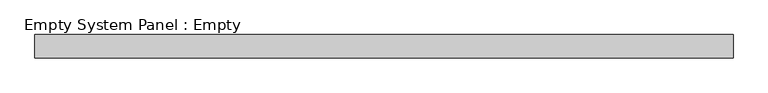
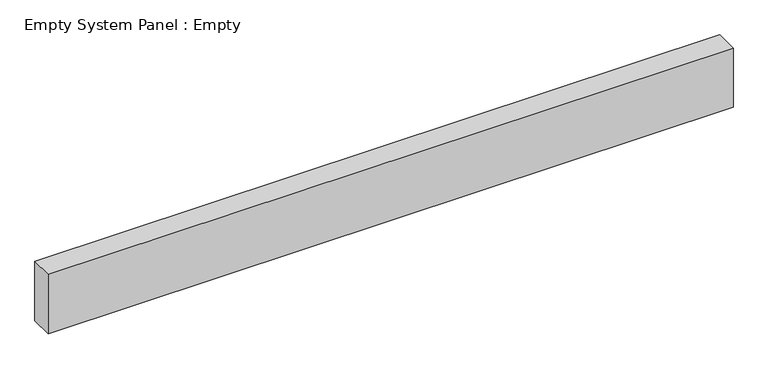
"""IFC4 building model written with IfcOpenShell, lengths in millimetres: plate geometry, Empty System Panel : Empty."""

from ifc_helpers import new_model, si_unit, origin, origin_with_axes, place, context, project, spatial, polyline, outline, extrude, source, transform, mapped, element, save


def empty_system_panel_empty_2f02a19b(model_context):
    return source(origin(), model_context, "Body", "SweptSolid", [
        extrude(outline(polyline([(1500.0, -50.0), (-1500.0, -50.0), (-1500.0, 50.0), (1500.0, 50.0), (1500.0, -50.0)])), origin_with_axes(), (0.0, 0.0, 1.0), 275.0),
    ])


if __name__ == "__main__":
    model = new_model("IFC4")
    model_context = context("Model", 3, world=origin())
    ifc_project = project(units=[si_unit("LENGTHUNIT", "METRE", prefix="MILLI")], contexts=[model_context])
    site = spatial("IfcSite", under=ifc_project)
    building = spatial("IfcBuilding", under=site)
    placement = place(None, origin())
    empty_system_panel_empty_shape = empty_system_panel_empty_2f02a19b(model_context)
    element("IfcPlate", 1, ObjectType="Empty System Panel : Empty", at=placement, inside=building, context=model_context, shape_type="MappedRepresentation", body=[
        mapped(empty_system_panel_empty_shape, transform((0.0, 0.0, 0.0), x_axis=(1.0, 0.0, 0.0), y_axis=(0.0, 1.0, 0.0), z_axis=(0.0, 0.0, 1.0))),
    ])
    save(model, "model.ifc")
